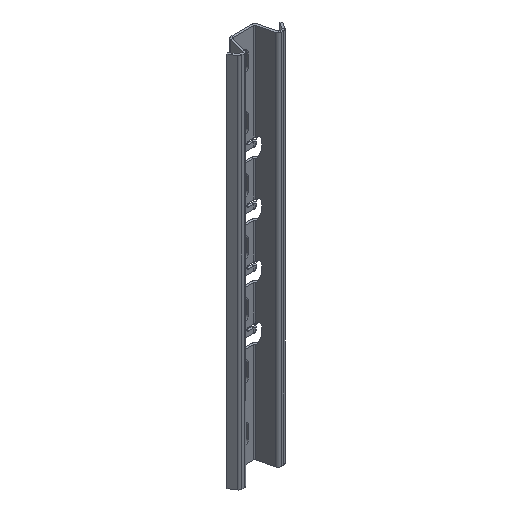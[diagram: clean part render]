
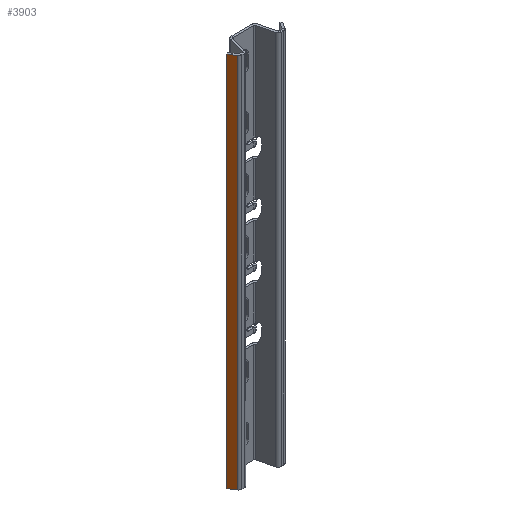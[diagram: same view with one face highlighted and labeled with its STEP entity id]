
A CAD part, isometric view. The second image highlights one B-rep face of the part: STEP entity #3903.
In plain terms, the highlighted planar face has unit normal (-0.832, -0.555, 0).
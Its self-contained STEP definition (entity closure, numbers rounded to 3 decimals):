
#381 = AXIS2_PLACEMENT_3D ( 'NONE', #714, #6814, #5575 ) ;
#431 = DIRECTION ( 'NONE',  ( -0.555, 0.832, 0. ) ) ;
#594 = FACE_OUTER_BOUND ( 'NONE', #8031, .T. ) ;
#714 = CARTESIAN_POINT ( 'NONE',  ( -26., -12.606, 350. ) ) ;
#1043 = VECTOR ( 'NONE', #1157, 1000. ) ;
#1157 = DIRECTION ( 'NONE',  ( 0., 0., -1. ) ) ;
#2042 = ORIENTED_EDGE ( 'NONE', *, *, #6602, .T. ) ;
#2193 = VERTEX_POINT ( 'NONE', #3610 ) ;
#2433 = DIRECTION ( 'NONE',  ( -0.555, 0.832, 0. ) ) ;
#2473 = LINE ( 'NONE', #2911, #3526 ) ;
#2688 = DIRECTION ( 'NONE',  ( 0., 0., -1. ) ) ;
#2689 = ORIENTED_EDGE ( 'NONE', *, *, #5389, .F. ) ;
#2911 = CARTESIAN_POINT ( 'NONE',  ( -26., -12.606, 0. ) ) ;
#3517 = LINE ( 'NONE', #5481, #1043 ) ;
#3526 = VECTOR ( 'NONE', #2433, 1000. ) ;
#3610 = CARTESIAN_POINT ( 'NONE',  ( -21.961, -18.664, 0. ) ) ;
#3659 = ORIENTED_EDGE ( 'NONE', *, *, #7499, .T. ) ;
#3903 = ADVANCED_FACE ( 'NONE', ( #594 ), #7472, .T. ) ;
#4093 = CARTESIAN_POINT ( 'NONE',  ( -26., -12.606, 0. ) ) ;
#4259 = EDGE_CURVE ( 'NONE', #6588, #2193, #3517, .T. ) ;
#4566 = CARTESIAN_POINT ( 'NONE',  ( -26., -12.606, 350. ) ) ;
#5266 = VERTEX_POINT ( 'NONE', #4093 ) ;
#5284 = LINE ( 'NONE', #4566, #7604 ) ;
#5389 = EDGE_CURVE ( 'NONE', #2193, #5266, #2473, .T. ) ;
#5481 = CARTESIAN_POINT ( 'NONE',  ( -21.961, -18.664, 350. ) ) ;
#5575 = DIRECTION ( 'NONE',  ( 0.555, -0.832, 0. ) ) ;
#5825 = ORIENTED_EDGE ( 'NONE', *, *, #4259, .F. ) ;
#6588 = VERTEX_POINT ( 'NONE', #8002 ) ;
#6602 = EDGE_CURVE ( 'NONE', #6588, #7547, #7960, .T. ) ;
#6722 = CARTESIAN_POINT ( 'NONE',  ( -26., -12.606, 350. ) ) ;
#6725 = VECTOR ( 'NONE', #431, 1000. ) ;
#6814 = DIRECTION ( 'NONE',  ( -0.832, -0.555, 0. ) ) ;
#7064 = CARTESIAN_POINT ( 'NONE',  ( -26., -12.606, 350. ) ) ;
#7472 = PLANE ( 'NONE',  #381 ) ;
#7499 = EDGE_CURVE ( 'NONE', #7547, #5266, #5284, .T. ) ;
#7547 = VERTEX_POINT ( 'NONE', #7064 ) ;
#7604 = VECTOR ( 'NONE', #2688, 1000. ) ;
#7960 = LINE ( 'NONE', #6722, #6725 ) ;
#8002 = CARTESIAN_POINT ( 'NONE',  ( -21.961, -18.664, 350. ) ) ;
#8031 = EDGE_LOOP ( 'NONE', ( #2689, #5825, #2042, #3659 ) ) ;
